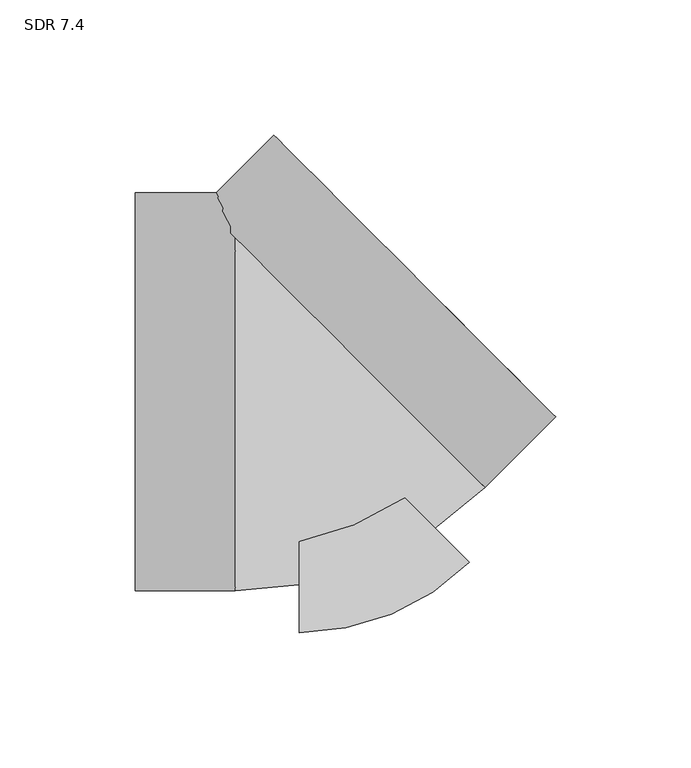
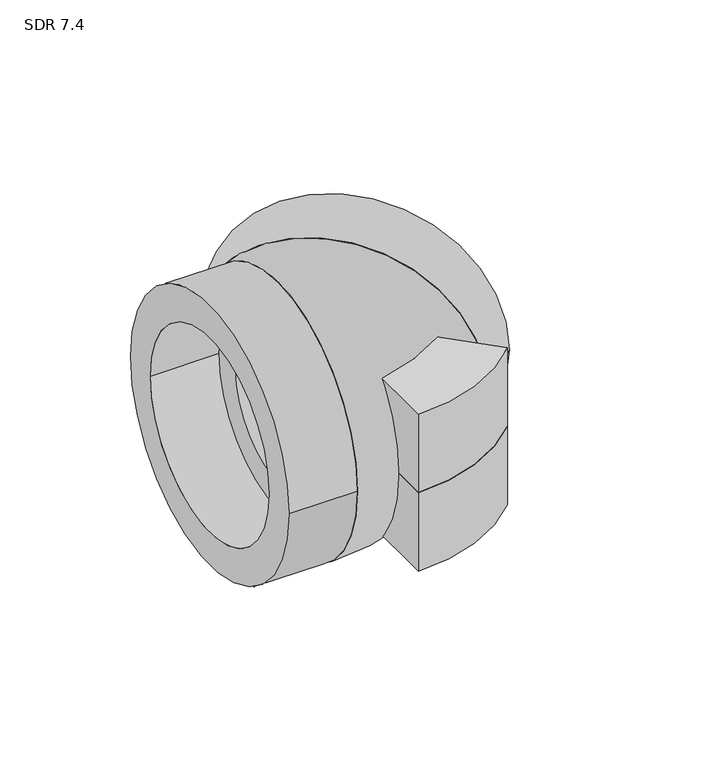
"""IFC4 building model written with IfcOpenShell, lengths in millimetres: pipe fitting geometry, Aquatherm - Elbow Socket : SDR 7.4."""

from ifc_helpers import new_model, si_unit, point, frame, origin, origin_with_axes, origin_2d, place, context, project, spatial, polyline, circle_curve, ellipse_curve, trimmed, segment, composite_curve, outline, extrude, source, transform, mapped, element, save
from ifc_brep_helpers import plane_surface, revolved_surface, advanced_brep


def sdr_7_4_952d9b6e(model_context):
    return source(origin(), model_context, "Body", "SolidModel", [
        extrude(outline(composite_curve([segment(polyline([(0.0, -88.9), (0.0, 0.0), (62.8617928, -62.8617928)]), True, "CONTINUOUS"), segment(trimmed(circle_curve(origin_2d(), 88.9), [point((62.8617928, -62.8617928))], [point((0.0, -88.9))], False, "CARTESIAN"), True, "CONTINUOUS")], self_intersect=False)), frame((0.0, 0.0, -44.45), z_axis=(0.0, 0.0, 1.0), x_axis=(1.0, 0.0, 0.0)), (0.0, 0.0, 1.0), 44.45),
        extrude(outline(composite_curve([segment(trimmed(circle_curve(origin_2d(), 88.9), [point((62.8617928, -62.8617928))], [point((0.0, -88.9))], False, "CARTESIAN"), True, "CONTINUOUS"), segment(polyline([(0.0, -88.9), (0.0, 0.0), (62.8617928, -62.8617928)]), True, "CONTINUOUS")], self_intersect=False)), origin_with_axes(), (0.0, 0.0, 1.0), 44.45),
        extrude(outline(composite_curve([segment(trimmed(circle_curve(origin_2d(), 73.533), [point((0.0, 73.533))], [point((0.0, -73.533))], False, "CARTESIAN"), True, "CONTINUOUS"), segment(trimmed(circle_curve(origin_2d(), 73.533), [point((0.0, -73.533))], [point((0.0, 73.533))], False, "CARTESIAN"), True, "CONTINUOUS")], self_intersect=False), holes=[composite_curve([segment(trimmed(circle_curve(origin_2d(), 54.991), [point((0.0, 54.991))], [point((0.0, -54.991))], True, "CARTESIAN"), True, "CONTINUOUS"), segment(trimmed(circle_curve(origin_2d(), 54.991), [point((0.0, -54.991))], [point((0.0, 54.991))], True, "CARTESIAN"), True, "CONTINUOUS")], self_intersect=False)]), frame((16.7032764, 16.7032764, 0.0), z_axis=(0.7071067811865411, 0.707106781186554, 0.0), x_axis=(0.0, 0.0, 1.0)), (0.0, 0.0, 1.0), 36.83),
        advanced_brep(
        [(-23.622, 57.0285528, -46.4203216), (-23.622, 57.0285528, 46.4203216), (-23.622, -39.7157222, 0.0), (-23.622, 39.7157222, 0.0), (44.7865329, -11.3799801, 0.0), (-11.3799801, 44.7865329, 0.0)],
        [
            (0, 1, circle_curve(frame((-23.622, 0.0, 0.0), z_axis=(-1.0, 0.0, 0.0), x_axis=(0.0, 1.0, 0.0)), 73.533)),
            (1, 0),
            (2, 3, circle_curve(frame((-23.622, 0.0, 0.0), z_axis=(1.0, 0.0, 0.0), x_axis=(0.0, 1.0, 0.0)), 39.7157222)),
            (3, 2, circle_curve(frame((-23.622, 0.0, 0.0), z_axis=(1.0, 0.0, 0.0), x_axis=(0.0, 1.0, 0.0)), 39.7157222)),
            (1, 0, circle_curve(frame((16.7032764, 16.7032764, 0.0), z_axis=(0.7071067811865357, 0.7071067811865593, 0.0), x_axis=(-0.7071067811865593, 0.7071067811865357, 0.0)), 73.533)),
            (4, 5, circle_curve(frame((16.7032764, 16.7032764, 0.0), z_axis=(-0.7071067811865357, -0.7071067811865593, 0.0), x_axis=(-0.7071067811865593, 0.7071067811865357, 0.0)), 39.7157222)),
            (5, 4, circle_curve(frame((16.7032764, 16.7032764, 0.0), z_axis=(-0.7071067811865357, -0.7071067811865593, 0.0), x_axis=(-0.7071067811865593, 0.7071067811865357, 0.0)), 39.7157222)),
            (5, 3, circle_curve(frame((-23.622, 57.0285528, 0.0), z_axis=(0.0, 0.0, -1.0), x_axis=(0.0, -1.0, 0.0)), 17.3128305)),
            (2, 4, circle_curve(frame((-23.622, 57.0285528, 0.0), z_axis=(0.0, 0.0, 1.0), x_axis=(0.0, -1.0, 0.0)), 96.744275)),
        ],
        [
            plane_surface(frame((-23.622, 57.0285528, 103.5703216), z_axis=(-1.0, 0.0, 0.0), x_axis=(0.0, -1.0, 0.0))),
            plane_surface(frame((-23.622, 57.0285528, 103.5703216), z_axis=(0.7071067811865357, 0.7071067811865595, 0.0), x_axis=(0.7071067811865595, -0.7071067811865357, 0.0))),
            revolved_surface(trimmed(ellipse_curve(frame((-23.622, 0.0, 0.0), z_axis=(1.0, 0.0, 0.0), x_axis=(0.0, 1.0, 0.0)), 73.533, 73.533), [point((-23.622, 57.0285528, 46.4203216))], [point((-23.622, 57.0285528, -46.4203216))], True, "CARTESIAN"), (-23.622, 57.0285528, 103.5703216), (0.0, 0.0, -1.0)),
            revolved_surface(trimmed(ellipse_curve(frame((-23.622, 0.0, 0.0), z_axis=(-1.0, 0.0, 0.0), x_axis=(0.0, 1.0, 0.0)), 39.7157222, 39.7157222), [point((-23.622, 39.7157222, 0.0))], [point((-23.622, -39.7157222, 0.0))], True, "CARTESIAN"), (-23.622, 57.0285528, 103.5703216), (0.0, 0.0, -1.0)),
            revolved_surface(trimmed(ellipse_curve(frame((-23.622, 0.0, 0.0), z_axis=(-1.0, 0.0, 0.0), x_axis=(0.0, 1.0, 0.0)), 39.7157222, 39.7157222), [point((-23.622, -39.7157222, 0.0))], [point((-23.622, 39.7157222, 0.0))], True, "CARTESIAN"), (-23.622, 57.0285528, 103.5703216), (0.0, 0.0, -1.0)),
        ],
        [
            (0, [[1, 2], [3, 4]]),
            (1, [[5, -2], [6, 7]]),
            (2, [[-1, -5]]),
            (3, [[8, -3, 9, -7]]),
            (4, [[-9, -4, -8, -6]]),
        ],
    ),
        extrude(outline(composite_curve([segment(trimmed(circle_curve(origin_2d(), 73.533), [point((73.533, 0.0))], [point((-73.533, 0.0))], False, "CARTESIAN"), True, "CONTINUOUS"), segment(trimmed(circle_curve(origin_2d(), 73.533), [point((-73.533, 0.0))], [point((73.533, 0.0))], False, "CARTESIAN"), True, "CONTINUOUS")], self_intersect=False), holes=[composite_curve([segment(trimmed(circle_curve(origin_2d(), 54.991), [point((54.991, 0.0))], [point((-54.991, 0.0))], True, "CARTESIAN"), True, "CONTINUOUS"), segment(trimmed(circle_curve(origin_2d(), 54.991), [point((-54.991, 0.0))], [point((54.991, 0.0))], True, "CARTESIAN"), True, "CONTINUOUS")], self_intersect=False)]), frame((-60.452, 0.0, 0.0), z_axis=(1.0, 0.0, 0.0), x_axis=(0.0, 1.0, 0.0)), (0.0, 0.0, 1.0), 36.83),
    ])


if __name__ == "__main__":
    model = new_model("IFC4")
    model_context = context("Model", 3, world=origin())
    ifc_project = project(units=[si_unit("LENGTHUNIT", "METRE", prefix="MILLI")], contexts=[model_context])
    site = spatial("IfcSite", under=ifc_project)
    building = spatial("IfcBuilding", under=site)
    placement = place(None, origin())
    sdr_7_4_shape = sdr_7_4_952d9b6e(model_context)
    element("IfcPipeFitting", 1, ObjectType="Aquatherm - Elbow Socket : SDR 7.4", at=placement, inside=building, context=model_context, shape_type="MappedRepresentation", body=[
        mapped(sdr_7_4_shape, transform((0.0, 0.0, 0.0), x_axis=(1.0, 0.0, 0.0), y_axis=(0.0, 1.0, 0.0), z_axis=(0.0, 0.0, 1.0))),
    ])
    save(model, "model.ifc")
